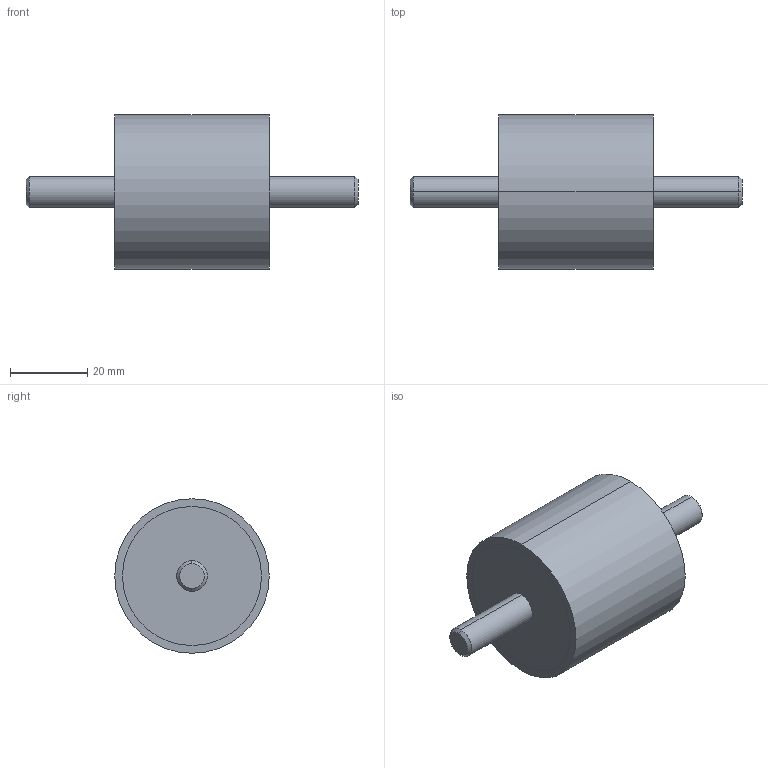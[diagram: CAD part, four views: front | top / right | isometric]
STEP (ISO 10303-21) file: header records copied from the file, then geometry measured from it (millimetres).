
FILE_DESCRIPTION (( 'STEP AP214' ), '1' );
FILE_NAME ('351-40-40-M8-SS-40.step', '2025-07-23T10:01:46', ( '' ), ( '' ), 'SwSTEP 2.0', 'SolidWorks 2022', '' );
FILE_SCHEMA (( 'AUTOMOTIVE_DESIGN' ));
Length unit declared in the file: millimetre
Products named in the file (1): 351-40-40-M8-SS-40
Bounding box: 86 x 40 x 40 mm (x, y, z)
Volume: 52543.3 mm3; surface area: 8673.5 mm2
Topology: 1 solids, 1 shells, 20 faces, 38 edges, 24 vertices
Faces by surface type: cylinder 10, plane 6, cone 4
Entity records: 636 total; most frequent: DIRECTION 104, CARTESIAN_POINT 83, ORIENTED_EDGE 76, AXIS2_PLACEMENT_3D 45, EDGE_CURVE 38, EDGE_LOOP 24, VERTEX_POINT 24, CIRCLE 24
